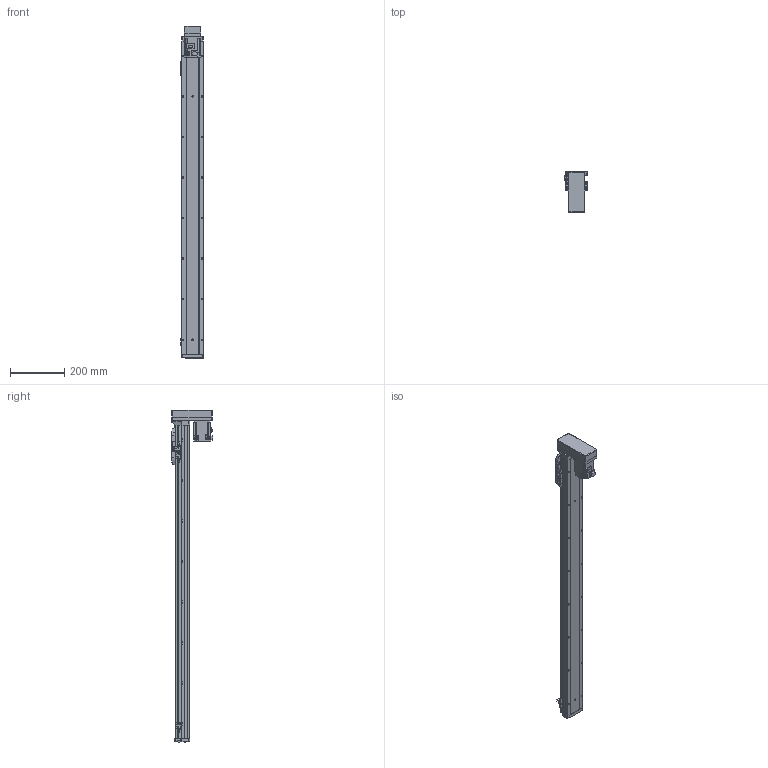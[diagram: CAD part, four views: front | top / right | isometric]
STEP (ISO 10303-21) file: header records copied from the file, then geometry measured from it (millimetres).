
FILE_DESCRIPTION (( 'STEP AP214' ), '1' );
FILE_NAME ('GSH8-1000-BM-M20-1.step', '2025-01-07T06:07:30', ( '' ), ( '' ), 'SwSTEP 2.0', 'SolidWorks 2012', '' );
FILE_SCHEMA (( 'AUTOMOTIVE_DESIGN' ));
Length unit declared in the file: millimetre
Products named in the file (5): GSH8-GY-004; GSH8-BL-011-1000-M20; HG-KR23_200W_Motor; GSH8-1000-BM-M20-1; GSH8-BL-008
Assembly tree (4 placements, depth 2):
  GSH8-1000-BM-M20-1
    GSH8-BL-011-1000-M20
    GSH8-GY-004
    GSH8-BL-008
    HG-KR23_200W_Motor
Bounding box: 84 x 152.3 x 1228.2 mm (x, y, z)
Volume: 2684059.7 mm3; surface area: 708525.5 mm2
Topology: 4 solids, 8 shells, 1163 faces, 3062 edges, 1972 vertices
Faces by surface type: plane 654, cylinder 413, torus 42, cone 26, bspline 24, sphere 4
Entity records: 45344 total; most frequent: CARTESIAN_POINT 10146, DIRECTION 6218, ORIENTED_EDGE 6108, EDGE_CURVE 3054, AXIS2_PLACEMENT_3D 2096, VECTOR 2026, LINE 2026, VERTEX_POINT 1968
